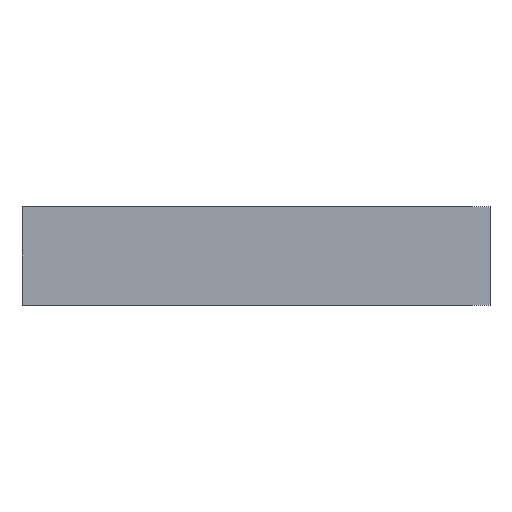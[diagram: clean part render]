
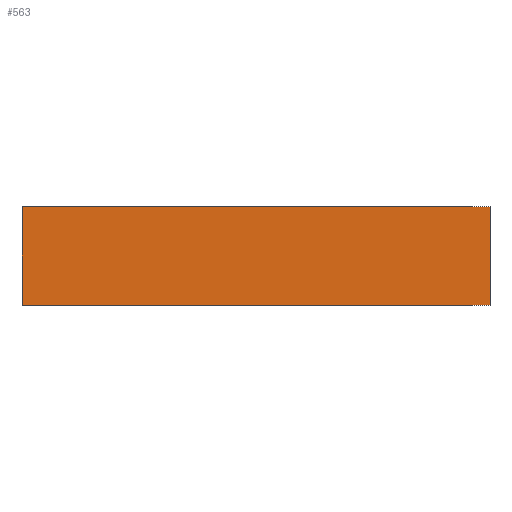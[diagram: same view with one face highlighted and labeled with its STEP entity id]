
A CAD part, front view. The second image highlights one B-rep face of the part: STEP entity #563.
In plain terms, the highlighted planar face has unit normal (0, -1, 0).
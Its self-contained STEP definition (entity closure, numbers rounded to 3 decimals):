
#42 = VECTOR ( 'NONE', #981, 1000. ) ;
#67 = LINE ( 'NONE', #976, #42 ) ;
#135 = VECTOR ( 'NONE', #876, 1000. ) ;
#142 = LINE ( 'NONE', #873, #135 ) ;
#170 = ORIENTED_EDGE ( 'NONE', *, *, #630, .T. ) ;
#193 = FACE_OUTER_BOUND ( 'NONE', #240, .T. ) ;
#240 = EDGE_LOOP ( 'NONE', ( #411, #286, #283, #170 ) ) ;
#283 = ORIENTED_EDGE ( 'NONE', *, *, #584, .F. ) ;
#286 = ORIENTED_EDGE ( 'NONE', *, *, #667, .F. ) ;
#411 = ORIENTED_EDGE ( 'NONE', *, *, #663, .T. ) ;
#499 = VECTOR ( 'NONE', #1056, 1000. ) ;
#506 = VECTOR ( 'NONE', #1047, 1000. ) ;
#507 = LINE ( 'NONE', #1046, #506 ) ;
#530 = LINE ( 'NONE', #1032, #499 ) ;
#563 = ADVANCED_FACE ( 'NONE', ( #193 ), #820, .F. ) ;
#584 = EDGE_CURVE ( 'NONE', #768, #793, #142, .T. ) ;
#630 = EDGE_CURVE ( 'NONE', #768, #781, #67, .T. ) ;
#663 = EDGE_CURVE ( 'NONE', #781, #770, #507, .T. ) ;
#667 = EDGE_CURVE ( 'NONE', #793, #770, #530, .T. ) ;
#686 = AXIS2_PLACEMENT_3D ( 'NONE', #823, #829, #830 ) ;
#768 = VERTEX_POINT ( 'NONE', #1116 ) ;
#770 = VERTEX_POINT ( 'NONE', #1118 ) ;
#781 = VERTEX_POINT ( 'NONE', #1129 ) ;
#793 = VERTEX_POINT ( 'NONE', #1141 ) ;
#820 = PLANE ( 'NONE',  #686 ) ;
#823 = CARTESIAN_POINT ( 'NONE',  ( -154., 0., 65. ) ) ;
#829 = DIRECTION ( 'NONE',  ( 0., 1., 0. ) ) ;
#830 = DIRECTION ( 'NONE',  ( -1., 0., 0. ) ) ;
#873 = CARTESIAN_POINT ( 'NONE',  ( -154., 0., 65. ) ) ;
#876 = DIRECTION ( 'NONE',  ( 1., 0., 0. ) ) ;
#976 = CARTESIAN_POINT ( 'NONE',  ( -154., 0., 65. ) ) ;
#981 = DIRECTION ( 'NONE',  ( 0., 0., -1. ) ) ;
#1032 = CARTESIAN_POINT ( 'NONE',  ( 154., 0., 65. ) ) ;
#1046 = CARTESIAN_POINT ( 'NONE',  ( -154., 0., 0. ) ) ;
#1047 = DIRECTION ( 'NONE',  ( 1., 0., 0. ) ) ;
#1056 = DIRECTION ( 'NONE',  ( 0., 0., -1. ) ) ;
#1116 = CARTESIAN_POINT ( 'NONE',  ( -154., 0., 65. ) ) ;
#1118 = CARTESIAN_POINT ( 'NONE',  ( 154., 0., 0. ) ) ;
#1129 = CARTESIAN_POINT ( 'NONE',  ( -154., 0., 0. ) ) ;
#1141 = CARTESIAN_POINT ( 'NONE',  ( 154., 0., 65. ) ) ;
